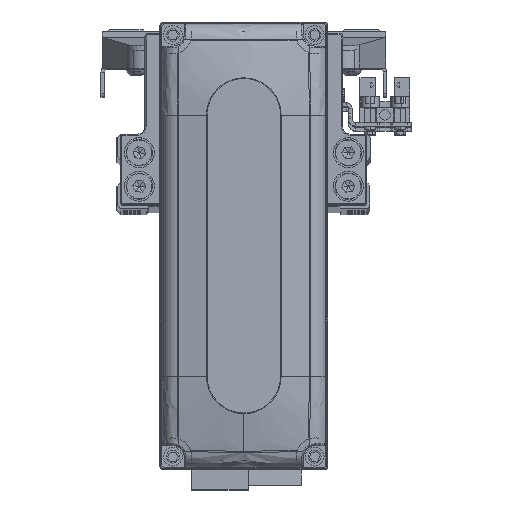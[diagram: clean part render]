
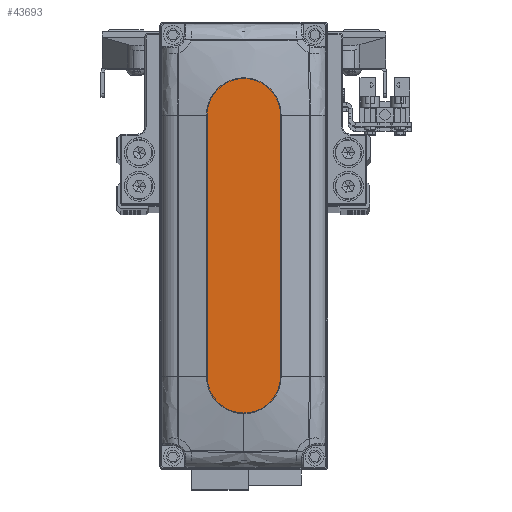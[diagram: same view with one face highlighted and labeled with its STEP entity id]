
A CAD part, top view. The second image highlights one B-rep face of the part: STEP entity #43693.
In plain terms, the highlighted planar face has unit normal (0, 0, 1).
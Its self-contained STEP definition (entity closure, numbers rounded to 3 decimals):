
#2149 = FACE_OUTER_BOUND ( 'NONE', #18894, .T. ) ;
#2955 = VECTOR ( 'NONE', #42985, 1000. ) ;
#3227 = DIRECTION ( 'NONE',  ( 0., 0., 1. ) ) ;
#4488 = EDGE_CURVE ( 'NONE', #34761, #32254, #10587, .T. ) ;
#8535 = CARTESIAN_POINT ( 'NONE',  ( -35., 10., 28. ) ) ;
#8701 = DIRECTION ( 'NONE',  ( 0., 0., 1. ) ) ;
#9017 = CARTESIAN_POINT ( 'NONE',  ( 45., 0., 28. ) ) ;
#9643 = VERTEX_POINT ( 'NONE', #9017 ) ;
#10086 = EDGE_CURVE ( 'NONE', #32254, #16932, #43427, .T. ) ;
#10587 = LINE ( 'NONE', #25074, #13268 ) ;
#11193 = AXIS2_PLACEMENT_3D ( 'NONE', #31181, #45700, #13113 ) ;
#12351 = ORIENTED_EDGE ( 'NONE', *, *, #10086, .T. ) ;
#12891 = AXIS2_PLACEMENT_3D ( 'NONE', #35827, #3227, #17727 ) ;
#13113 = DIRECTION ( 'NONE',  ( 1., 0., 0. ) ) ;
#13268 = VECTOR ( 'NONE', #39607, 1000. ) ;
#13674 = ORIENTED_EDGE ( 'NONE', *, *, #16634, .T. ) ;
#13961 = LINE ( 'NONE', #28465, #2955 ) ;
#14371 = DIRECTION ( 'NONE',  ( 0., 0., 1. ) ) ;
#16634 = EDGE_CURVE ( 'NONE', #9643, #34761, #33406, .T. ) ;
#16666 = PLANE ( 'NONE',  #11193 ) ;
#16932 = VERTEX_POINT ( 'NONE', #41968 ) ;
#17727 = DIRECTION ( 'NONE',  ( 1., 0., 0. ) ) ;
#18894 = EDGE_LOOP ( 'NONE', ( #25564, #12351, #42428, #26747, #13674 ) ) ;
#19919 = CARTESIAN_POINT ( 'NONE',  ( 35., -10., 28. ) ) ;
#22598 = EDGE_CURVE ( 'NONE', #41214, #9643, #44721, .T. ) ;
#22915 = AXIS2_PLACEMENT_3D ( 'NONE', #41308, #8701, #23210 ) ;
#23210 = DIRECTION ( 'NONE',  ( 1., 0., 0. ) ) ;
#24208 = AXIS2_PLACEMENT_3D ( 'NONE', #46963, #14371, #28888 ) ;
#25074 = CARTESIAN_POINT ( 'NONE',  ( -35., 10., 28. ) ) ;
#25564 = ORIENTED_EDGE ( 'NONE', *, *, #4488, .T. ) ;
#26747 = ORIENTED_EDGE ( 'NONE', *, *, #22598, .T. ) ;
#28465 = CARTESIAN_POINT ( 'NONE',  ( -35., -10., 28. ) ) ;
#28888 = DIRECTION ( 'NONE',  ( 1., 0., 0. ) ) ;
#31181 = CARTESIAN_POINT ( 'NONE',  ( 0., 0., 28. ) ) ;
#32254 = VERTEX_POINT ( 'NONE', #8535 ) ;
#33406 = CIRCLE ( 'NONE', #12891, 10. ) ;
#34761 = VERTEX_POINT ( 'NONE', #34868 ) ;
#34868 = CARTESIAN_POINT ( 'NONE',  ( 35., 10., 28. ) ) ;
#35827 = CARTESIAN_POINT ( 'NONE',  ( 35., 0., 28. ) ) ;
#39607 = DIRECTION ( 'NONE',  ( -1., 0., 0. ) ) ;
#41214 = VERTEX_POINT ( 'NONE', #19919 ) ;
#41305 = EDGE_CURVE ( 'NONE', #16932, #41214, #13961, .T. ) ;
#41308 = CARTESIAN_POINT ( 'NONE',  ( -35., 0., 28. ) ) ;
#41968 = CARTESIAN_POINT ( 'NONE',  ( -35., -10., 28. ) ) ;
#42428 = ORIENTED_EDGE ( 'NONE', *, *, #41305, .T. ) ;
#42985 = DIRECTION ( 'NONE',  ( 1., 0., 0. ) ) ;
#43427 = CIRCLE ( 'NONE', #22915, 10. ) ;
#43693 = ADVANCED_FACE ( 'NONE', ( #2149 ), #16666, .T. ) ;
#44721 = CIRCLE ( 'NONE', #24208, 10. ) ;
#45700 = DIRECTION ( 'NONE',  ( 0., 0., 1. ) ) ;
#46963 = CARTESIAN_POINT ( 'NONE',  ( 35., 0., 28. ) ) ;
